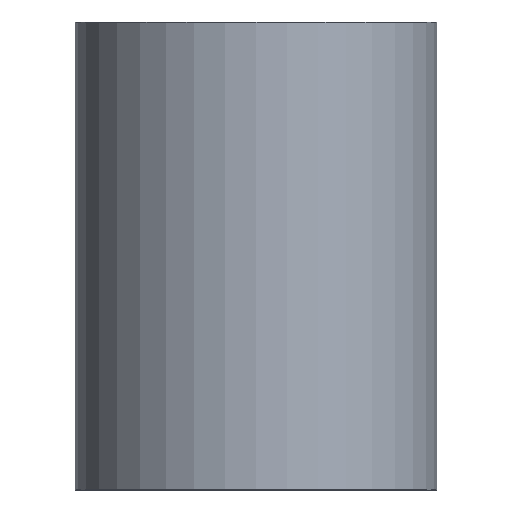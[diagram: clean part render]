
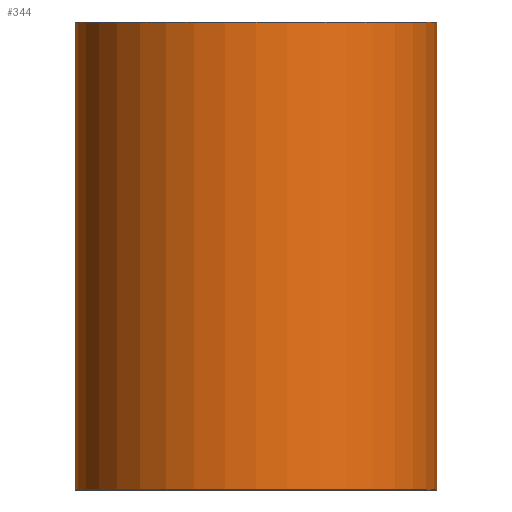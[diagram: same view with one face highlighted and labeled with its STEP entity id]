
A CAD part, top view. The second image highlights one B-rep face of the part: STEP entity #344.
In plain terms, the highlighted cylindrical face has radius 28.575 mm (diameter 57.15 mm), a partial arc.
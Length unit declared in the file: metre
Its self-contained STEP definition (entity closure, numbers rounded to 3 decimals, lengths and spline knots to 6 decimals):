
#12=CIRCLE('',#377,0.028575);
#13=CIRCLE('',#378,0.028575);
#22=CYLINDRICAL_SURFACE('',#376,0.028575);
#39=ORIENTED_EDGE('',*,*,#127,.T.);
#40=ORIENTED_EDGE('',*,*,#128,.F.);
#41=ORIENTED_EDGE('',*,*,#129,.F.);
#42=ORIENTED_EDGE('',*,*,#124,.T.);
#124=EDGE_CURVE('',#169,#167,#200,.T.);
#127=EDGE_CURVE('',#167,#171,#12,.T.);
#128=EDGE_CURVE('',#172,#171,#203,.T.);
#129=EDGE_CURVE('',#169,#172,#13,.T.);
#167=VERTEX_POINT('',#517);
#169=VERTEX_POINT('',#520);
#171=VERTEX_POINT('',#526);
#172=VERTEX_POINT('',#528);
#200=LINE('',#519,#234);
#203=LINE('',#527,#237);
#234=VECTOR('',#419,1.);
#237=VECTOR('',#426,1.);
#262=EDGE_LOOP('',(#39,#40,#41,#42));
#296=FACE_BOUND('',#262,.T.);
#344=ADVANCED_FACE('',(#296),#22,.T.);
#376=AXIS2_PLACEMENT_3D('',#524,#422,#423);
#377=AXIS2_PLACEMENT_3D('',#525,#424,#425);
#378=AXIS2_PLACEMENT_3D('',#529,#427,#428);
#419=DIRECTION('',(0.,-1.,0.));
#422=DIRECTION('',(0.,-1.,0.));
#423=DIRECTION('',(-1.,0.,0.));
#424=DIRECTION('',(0.,1.,0.));
#425=DIRECTION('',(1.,0.,0.));
#426=DIRECTION('',(0.,-1.,0.));
#427=DIRECTION('',(0.,1.,0.));
#428=DIRECTION('',(1.,0.,0.));
#517=CARTESIAN_POINT('',(-0.028575,0.,0.));
#519=CARTESIAN_POINT('',(-0.028575,0.06985,0.));
#520=CARTESIAN_POINT('',(-0.028575,0.07385,0.));
#524=CARTESIAN_POINT('',(0.,0.06985,0.));
#525=CARTESIAN_POINT('',(0.,0.,0.));
#526=CARTESIAN_POINT('',(0.028575,0.,0.));
#527=CARTESIAN_POINT('',(0.028575,0.06985,0.));
#528=CARTESIAN_POINT('',(0.028575,0.07385,0.));
#529=CARTESIAN_POINT('',(0.,0.07385,0.));
